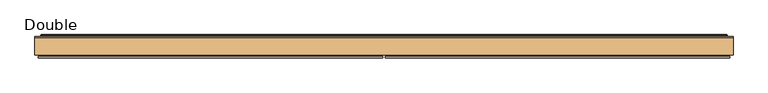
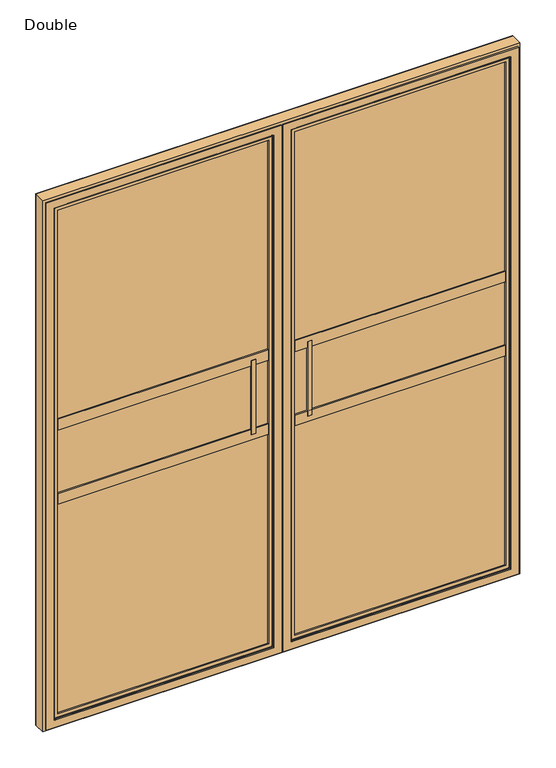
"""IFC4 building model written with IfcOpenShell, lengths in millimetres: door geometry, SMARTS_HeritageDoor : Double."""

from ifc_helpers import new_model, si_unit, frame, origin, place, context, project, spatial, polyline, ellipse_curve, outline, extrude, source, transform, mapped, element, save
from ifc_brep_helpers import plane_surface, cylinder_surface, revolved_surface, advanced_brep


def double_445c4c4e(model_context):
    return source(origin(), model_context, "Body", "SolidModel", [
        extrude(outline(polyline([(-38.0, -46.0), (-856.5, -46.0), (-856.5, -42.0), (-38.0, -42.0), (-38.0, -46.0)])), frame((0.0, 0.0, 843.5), z_axis=(0.0, 0.0, 1.0), x_axis=(1.0, 0.0, 0.0)), (0.0, 0.0, 1.0), 2033.0),
        extrude(outline(polyline([(-38.0, -26.0), (-856.5, -26.0), (-856.5, -22.0), (-38.0, -22.0), (-38.0, -26.0)])), frame((0.0, 0.0, 843.5), z_axis=(0.0, 0.0, 1.0), x_axis=(1.0, 0.0, 0.0)), (0.0, 0.0, 1.0), 2033.0),
        extrude(outline(polyline([(2876.5, -856.5), (843.5, -856.5), (843.5, -38.0), (2876.5, -38.0), (2876.5, -856.5)]), holes=[polyline([(2866.5, -48.0), (853.5, -48.0), (853.5, -846.5), (2866.5, -846.5), (2866.5, -48.0)])]), frame((0.0, -42.0, 0.0), z_axis=(0.0, 1.0, 0.0), x_axis=(0.0, 0.0, 1.0)), (0.0, 0.0, 1.0), 16.0),
        extrude(outline(polyline([(-99.7380255, -18.3), (-114.7380255, -18.3), (-114.7380255, -7.0), (-99.7380255, -7.0), (-99.7380255, -18.3)])), frame((0.0, 0.0, 1712.0), z_axis=(0.0, 0.0, 1.0), x_axis=(1.0, 0.0, 0.0)), (0.0, 0.0, 1.0), 296.0),
        extrude(outline(polyline([(-34.5, -7.0), (-34.5, -37.9), (-99.7380255, -37.9), (-99.7380255, -7.0), (-34.5, -7.0)])), frame((0.0, 0.0, 1712.0), z_axis=(0.0, 0.0, 1.0), x_axis=(1.0, 0.0, 0.0)), (0.0, 0.0, 1.0), 296.0),
        extrude(outline(polyline([(-114.7380255, -49.6), (-99.7380255, -49.6), (-99.7380255, -37.9), (-34.3, -37.9), (-34.3, -47.9), (-98.0380255, -47.9), (-98.0380255, -53.8), (-114.7380255, -53.8), (-114.7380255, -49.6)])), frame((0.0, 0.0, 1712.0), z_axis=(0.0, 0.0, 1.0), x_axis=(1.0, 0.0, 0.0)), (0.0, 0.0, 1.0), 296.0),
        extrude(outline(polyline([(2880.0052956, -860.0052956), (839.9947044, -860.0052956), (839.9947044, -34.4947044), (2880.0052956, -34.4947044), (2880.0052956, -860.0052956)]), holes=[polyline([(2865.0, -49.5), (855.0, -49.5), (855.0, -845.0), (2865.0, -845.0), (2865.0, -49.5)])]), frame((0.0, -19.3, 0.0), z_axis=(0.0, 1.0, 0.0), x_axis=(0.0, 0.0, 1.0)), (0.0, 0.0, 1.0), 11.3),
        extrude(outline(polyline([(2895.6451958, -18.8548042), (2895.6451958, -875.6451958), (824.3548042, -875.6451958), (824.3548042, -18.8548042), (2895.6451958, -18.8548042)]), holes=[polyline([(840.0, -34.5), (840.0, -860.0), (2880.0, -860.0), (2880.0, -34.5), (840.0, -34.5)])]), frame((0.0, -49.6, 0.0), z_axis=(0.0, 1.0, 0.0), x_axis=(0.0, 0.0, 1.0)), (0.0, 0.0, 1.0), 41.6),
        advanced_brep(
        [(-49.5, -54.8, 2865.0), (-49.5, -49.6, 2865.0), (-49.5, -49.6, 855.0), (-49.5, -54.8, 855.0), (-845.0, -49.6, 855.0), (-845.0, -54.8, 855.0), (-845.0, -49.6, 2865.0), (-845.0, -54.8, 2865.0), (-3.3, -56.0, 2911.2), (-3.3, -60.0, 2911.2), (-3.3, -60.0, 808.8), (-3.3, -56.0, 808.8), (-891.2, -60.0, 808.8), (-891.2, -56.0, 808.8), (-891.2, -60.0, 2911.2), (-891.2, -56.0, 2911.2), (-18.3532343, -56.0, 2896.1467657), (-876.1467657, -56.0, 2896.1467657), (-876.1467657, -56.0, 823.8532343), (-18.3532343, -56.0, 823.8532343), (-32.3, -60.0, 837.8), (-862.2, -60.0, 837.8), (-862.2, -60.0, 2882.2), (-32.3, -60.0, 2882.2), (-18.3532343, -49.6, 2896.1467657), (-18.3532343, -49.6, 823.8532343), (-876.1467657, -49.6, 823.8532343), (-876.1467657, -49.6, 2896.1467657), (-34.3, -58.0, 2880.2), (-34.3, -56.8, 2880.2), (-34.3, -56.8, 839.8), (-34.3, -58.0, 839.8), (-36.3, -54.8, 2878.2), (-36.3, -54.8, 841.8), (-860.2, -56.8, 839.8), (-860.2, -58.0, 839.8), (-858.2, -54.8, 841.8), (-860.2, -56.8, 2880.2), (-860.2, -58.0, 2880.2), (-858.2, -54.8, 2878.2)],
        [
            (0, 1),
            (1, 2),
            (2, 3),
            (3, 0),
            (2, 4),
            (4, 5),
            (5, 3),
            (4, 6),
            (6, 7),
            (7, 5),
            (6, 1),
            (0, 7),
            (8, 9),
            (9, 10),
            (10, 11),
            (11, 8),
            (10, 12),
            (12, 13),
            (13, 11),
            (12, 14),
            (14, 15),
            (15, 13),
            (15, 8),
            (16, 17),
            (17, 18),
            (18, 19),
            (19, 16),
            (14, 9),
            (20, 21),
            (21, 22),
            (22, 23),
            (23, 20),
            (24, 16),
            (19, 25),
            (25, 24),
            (18, 26),
            (26, 25),
            (17, 27),
            (27, 26),
            (27, 24),
            (28, 29),
            (29, 30),
            (30, 31),
            (31, 28),
            (29, 32, ellipse_curve(frame((-36.3, -56.8, 2878.2), z_axis=(-0.7071067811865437, 0.0, 0.7071067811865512), x_axis=(-0.7071067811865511, 0.0, -0.7071067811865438)), 2.8284271, 2.0)),
            (32, 33),
            (33, 30, ellipse_curve(frame((-36.3, -56.8, 841.8), z_axis=(-0.7071067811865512, 0.0, -0.7071067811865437), x_axis=(0.7071067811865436, 0.0, -0.7071067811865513)), 2.8284271, 2.0)),
            (30, 34),
            (34, 35),
            (35, 31),
            (33, 36),
            (36, 34, ellipse_curve(frame((-858.2, -56.8, 841.8), z_axis=(-0.7071067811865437, 0.0, 0.7071067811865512), x_axis=(-0.7071067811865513, 0.0, -0.7071067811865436)), 2.8284271, 2.0)),
            (34, 37),
            (37, 38),
            (38, 35),
            (36, 39),
            (39, 37, ellipse_curve(frame((-858.2, -56.8, 2878.2), z_axis=(0.7071067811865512, 0.0, 0.7071067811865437), x_axis=(-0.7071067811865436, 0.0, 0.7071067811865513)), 2.8284271, 2.0)),
            (32, 39),
            (37, 29),
            (28, 38),
            (23, 28, ellipse_curve(frame((-32.3, -58.0, 2882.2), z_axis=(0.7071067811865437, 0.0, -0.7071067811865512), x_axis=(0.7071067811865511, 0.0, 0.7071067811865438)), 2.8284271, 2.0)),
            (31, 20, ellipse_curve(frame((-32.3, -58.0, 837.8), z_axis=(0.7071067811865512, 0.0, 0.7071067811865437), x_axis=(-0.7071067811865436, 0.0, 0.7071067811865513)), 2.8284271, 2.0)),
            (35, 21, ellipse_curve(frame((-862.2, -58.0, 837.8), z_axis=(0.7071067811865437, 0.0, -0.7071067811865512), x_axis=(0.7071067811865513, 0.0, 0.7071067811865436)), 2.8284271, 2.0)),
            (38, 22, ellipse_curve(frame((-862.2, -58.0, 2882.2), z_axis=(-0.7071067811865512, 0.0, -0.7071067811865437), x_axis=(0.7071067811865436, 0.0, -0.7071067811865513)), 2.8284271, 2.0)),
        ],
        [
            plane_surface(frame((-49.5, -49.6, 2865.0), z_axis=(-1.0, 0.0, 0.0), x_axis=(0.0, 0.0, -1.0))),
            plane_surface(frame((-49.5, -49.6, 855.0), z_axis=(0.0, 0.0, 1.0), x_axis=(-1.0, 0.0, 0.0))),
            plane_surface(frame((-845.0, -49.6, 855.0), z_axis=(1.0, 0.0, 0.0), x_axis=(0.0, 0.0, 1.0))),
            plane_surface(frame((-845.0, -49.6, 2865.0), z_axis=(0.0, 0.0, -1.0), x_axis=(1.0, 0.0, 0.0))),
            plane_surface(frame((-3.3, -60.0, 2911.2), z_axis=(1.0, 0.0, 0.0), x_axis=(0.0, 0.0, -1.0))),
            plane_surface(frame((-3.3, -60.0, 808.8), z_axis=(0.0, 0.0, -1.0), x_axis=(-1.0, 0.0, 0.0))),
            plane_surface(frame((-891.2, -60.0, 808.8), z_axis=(-1.0, 0.0, 0.0), x_axis=(0.0, 0.0, 1.0))),
            plane_surface(frame((-891.2, -56.0, 2911.2), z_axis=(0.0, 1.0, 0.0), x_axis=(1.0, 0.0, 0.0))),
            plane_surface(frame((-891.2, -60.0, 2911.2), z_axis=(0.0, 0.0, 1.0), x_axis=(1.0, 0.0, 0.0))),
            plane_surface(frame((-862.2, -60.0, 2882.2), z_axis=(0.0, -1.0, 0.0), x_axis=(1.0, 0.0, 0.0))),
            plane_surface(frame((-18.3532343, -56.0, 2896.1467657), z_axis=(1.0, 0.0, 0.0), x_axis=(0.0, 0.0, -1.0))),
            plane_surface(frame((-18.3532343, -56.0, 823.8532343), z_axis=(0.0, 0.0, -1.0), x_axis=(-1.0, 0.0, 0.0))),
            plane_surface(frame((-876.1467657, -56.0, 823.8532343), z_axis=(-1.0, 0.0, 0.0), x_axis=(0.0, 0.0, 1.0))),
            plane_surface(frame((-876.1467657, -49.6, 2896.1467657), z_axis=(0.0, 1.0, 0.0), x_axis=(1.0, 0.0, 0.0))),
            plane_surface(frame((-876.1467657, -56.0, 2896.1467657), z_axis=(0.0, 0.0, 1.0), x_axis=(1.0, 0.0, 0.0))),
            plane_surface(frame((-34.3, -56.8, 2880.2), z_axis=(-1.0, 0.0, 0.0), x_axis=(0.0, 0.0, -1.0))),
            revolved_surface(polyline([(-34.3, -56.8, 839.8000000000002), (-34.3, -56.8, 2880.2)]), (-36.3, -56.8, 2890.0), (0.0, 0.0, -1.0)),
            plane_surface(frame((-34.3, -56.8, 839.8), z_axis=(0.0, 0.0, 1.0), x_axis=(-1.0, 0.0, 0.0))),
            revolved_surface(polyline([(-860.2, -56.8, 839.8), (-34.3, -56.8, 839.8)]), (-24.5, -56.8, 841.8), (-1.0, 0.0, 0.0)),
            plane_surface(frame((-860.2, -56.8, 839.8), z_axis=(1.0, 0.0, 0.0), x_axis=(0.0, 0.0, 1.0))),
            revolved_surface(polyline([(-860.2, -56.8, 2880.2), (-860.2, -56.8, 839.8)]), (-858.2, -56.8, 830.0), (0.0, 0.0, 1.0)),
            plane_surface(frame((-845.0, -54.8, 2865.0), z_axis=(0.0, -1.0, 0.0), x_axis=(1.0, 0.0, 0.0))),
            plane_surface(frame((-860.2, -56.8, 2880.2), z_axis=(0.0, 0.0, -1.0), x_axis=(1.0, 0.0, 0.0))),
            revolved_surface(polyline([(-34.299999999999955, -56.8, 2880.2), (-860.2, -56.8, 2880.2)]), (-870.0, -56.8, 2878.2), (1.0, 0.0, 0.0)),
            cylinder_surface(frame((-32.3, -58.0, 2890.0), z_axis=(0.0, 0.0, 1.0), x_axis=(1.0, 0.0, 0.0)), 2.0),
            cylinder_surface(frame((-24.5, -58.0, 837.8), z_axis=(1.0, 0.0, 0.0), x_axis=(0.0, 0.0, -1.0)), 2.0),
            cylinder_surface(frame((-862.2, -58.0, 830.0), z_axis=(0.0, 0.0, -1.0), x_axis=(-1.0, 0.0, 0.0)), 2.0),
            cylinder_surface(frame((-870.0, -58.0, 2882.2), z_axis=(-1.0, 0.0, 0.0), x_axis=(0.0, 0.0, 1.0)), 2.0),
        ],
        [
            (0, [[1, 2, 3, 4]]),
            (1, [[-3, 5, 6, 7]]),
            (2, [[-6, 8, 9, 10]]),
            (3, [[-9, 11, -1, 12]]),
            (4, [[13, 14, 15, 16]]),
            (5, [[-15, 17, 18, 19]]),
            (6, [[-18, 20, 21, 22]]),
            (7, [[-19, -22, 23, -16], [24, 25, 26, 27]]),
            (8, [[-21, 28, -13, -23]]),
            (9, [[-28, -20, -17, -14], [29, 30, 31, 32]]),
            (10, [[33, -27, 34, 35]]),
            (11, [[-34, -26, 36, 37]]),
            (12, [[-36, -25, 38, 39]]),
            (13, [[-37, -39, 40, -35], [-11, -8, -5, -2]]),
            (14, [[-38, -24, -33, -40]]),
            (15, [[41, 42, 43, 44]]),
            (16, [[45, 46, 47, -42]]),
            (17, [[-43, 48, 49, 50]]),
            (18, [[-47, 51, 52, -48]]),
            (19, [[-49, 53, 54, 55]]),
            (20, [[-52, 56, 57, -53]]),
            (21, [[58, -56, -51, -46], [-7, -10, -12, -4]]),
            (22, [[-54, 59, -41, 60]]),
            (23, [[-57, -58, -45, -59]]),
            (24, [[61, -44, 62, -32]]),
            (25, [[-62, -50, 63, -29]]),
            (26, [[-63, -55, 64, -30]]),
            (27, [[-64, -60, -61, -31]]),
        ],
    ),
        extrude(outline(polyline([(-845.0, -18.4690746), (-845.0, -7.1690746), (-49.5, -7.1690746), (-49.5, -18.4690746), (-845.0, -18.4690746)])), frame((0.0, 0.0, 1986.75), z_axis=(0.0, 0.0, 1.0), x_axis=(1.0, 0.0, 0.0)), (0.0, 0.0, 1.0), 16.15),
        extrude(outline(polyline([(-845.0, -18.4690746), (-845.0, -7.1690746), (-49.5, -7.1690746), (-49.5, -18.4690746), (-845.0, -18.4690746)])), frame((0.0, 0.0, 2014.25), z_axis=(0.0, 0.0, 1.0), x_axis=(1.0, 0.0, 0.0)), (0.0, 0.0, 1.0), 15.0052956),
        extrude(outline(polyline([(-845.0, -33.5843537), (-845.0, -7.1690746), (-49.5, -7.1690746), (-49.5, -33.5843537), (-845.0, -33.5843537)])), frame((0.0, 0.0, 2001.75), z_axis=(0.0, 0.0, 1.0), x_axis=(1.0, 0.0, 0.0)), (0.0, 0.0, 1.0), 12.5),
        extrude(outline(polyline([(-49.9690746, 2029.2552956), (-49.9690746, 2014.25), (-33.5843537, 2014.25), (-33.5843537, 2001.75), (-49.9690746, 2001.75), (-49.9690746, 1986.75), (-53.9687074, 1986.75), (-53.9687074, 2029.2552956), (-49.9690746, 2029.2552956)])), frame((-845.0, 0.0, 0.0), z_axis=(1.0, 0.0, 0.0), x_axis=(0.0, 1.0, 0.0)), (0.0, 0.0, 1.0), 795.5),
        extrude(outline(polyline([(-845.0, -18.4690746), (-845.0, -7.1690746), (-49.5, -7.1690746), (-49.5, -18.4690746), (-845.0, -18.4690746)])), frame((0.0, 0.0, 1690.75), z_axis=(0.0, 0.0, 1.0), x_axis=(1.0, 0.0, 0.0)), (0.0, 0.0, 1.0), 16.15),
        extrude(outline(polyline([(-845.0, -18.4690746), (-845.0, -7.1690746), (-49.5, -7.1690746), (-49.5, -18.4690746), (-845.0, -18.4690746)])), frame((0.0, 0.0, 1718.25), z_axis=(0.0, 0.0, 1.0), x_axis=(1.0, 0.0, 0.0)), (0.0, 0.0, 1.0), 15.0052956),
        extrude(outline(polyline([(-845.0, -33.5843537), (-845.0, -7.1690746), (-49.5, -7.1690746), (-49.5, -33.5843537), (-845.0, -33.5843537)])), frame((0.0, 0.0, 1705.75), z_axis=(0.0, 0.0, 1.0), x_axis=(1.0, 0.0, 0.0)), (0.0, 0.0, 1.0), 12.5),
        extrude(outline(polyline([(-49.9690746, 1733.2552956), (-49.9690746, 1718.25), (-33.5843537, 1718.25), (-33.5843537, 1705.75), (-49.9690746, 1705.75), (-49.9690746, 1690.75), (-53.9687074, 1690.75), (-53.9687074, 1733.2552956), (-49.9690746, 1733.2552956)])), frame((-845.0, 0.0, 0.0), z_axis=(1.0, 0.0, 0.0), x_axis=(0.0, 1.0, 0.0)), (0.0, 0.0, 1.0), 795.5),
        extrude(outline(polyline([(38.0, -46.0), (38.0, -42.0), (856.5, -42.0), (856.5, -46.0), (38.0, -46.0)])), frame((0.0, 0.0, 843.5), z_axis=(0.0, 0.0, 1.0), x_axis=(1.0, 0.0, 0.0)), (0.0, 0.0, 1.0), 2033.0),
        extrude(outline(polyline([(38.0, -26.0), (38.0, -22.0), (856.5, -22.0), (856.5, -26.0), (38.0, -26.0)])), frame((0.0, 0.0, 843.5), z_axis=(0.0, 0.0, 1.0), x_axis=(1.0, 0.0, 0.0)), (0.0, 0.0, 1.0), 2033.0),
        extrude(outline(polyline([(2876.5, 856.5), (2876.5, 38.0), (843.5, 38.0), (843.5, 856.5), (2876.5, 856.5)]), holes=[polyline([(2866.5, 48.0), (2866.5, 846.5), (853.5, 846.5), (853.5, 48.0), (2866.5, 48.0)])]), frame((0.0, -42.0, 0.0), z_axis=(0.0, 1.0, 0.0), x_axis=(0.0, 0.0, 1.0)), (0.0, 0.0, 1.0), 16.0),
        extrude(outline(polyline([(99.7380255, -18.3), (99.7380255, -7.0), (114.7380255, -7.0), (114.7380255, -18.3), (99.7380255, -18.3)])), frame((0.0, 0.0, 1712.0), z_axis=(0.0, 0.0, 1.0), x_axis=(1.0, 0.0, 0.0)), (0.0, 0.0, 1.0), 296.0),
        extrude(outline(polyline([(34.5, -7.0), (99.7380255, -7.0), (99.7380255, -37.9), (34.5, -37.9), (34.5, -7.0)])), frame((0.0, 0.0, 1712.0), z_axis=(0.0, 0.0, 1.0), x_axis=(1.0, 0.0, 0.0)), (0.0, 0.0, 1.0), 296.0),
        extrude(outline(polyline([(114.7380255, -49.6), (114.7380255, -53.8), (98.0380255, -53.8), (98.0380255, -47.9), (34.3, -47.9), (34.3, -37.9), (99.7380255, -37.9), (99.7380255, -49.6), (114.7380255, -49.6)])), frame((0.0, 0.0, 1712.0), z_axis=(0.0, 0.0, 1.0), x_axis=(1.0, 0.0, 0.0)), (0.0, 0.0, 1.0), 296.0),
        extrude(outline(polyline([(2880.0052956, 860.0052956), (2880.0052956, 34.4947044), (839.9947044, 34.4947044), (839.9947044, 860.0052956), (2880.0052956, 860.0052956)]), holes=[polyline([(2865.0, 49.5), (2865.0, 845.0), (855.0, 845.0), (855.0, 49.5), (2865.0, 49.5)])]), frame((0.0, -19.3, 0.0), z_axis=(0.0, 1.0, 0.0), x_axis=(0.0, 0.0, 1.0)), (0.0, 0.0, 1.0), 11.3),
        extrude(outline(polyline([(2895.6451958, 18.8548042), (824.3548042, 18.8548042), (824.3548042, 875.6451958), (2895.6451958, 875.6451958), (2895.6451958, 18.8548042)]), holes=[polyline([(840.0, 34.5), (2880.0, 34.5), (2880.0, 860.0), (840.0, 860.0), (840.0, 34.5)])]), frame((0.0, -49.6, 0.0), z_axis=(0.0, 1.0, 0.0), x_axis=(0.0, 0.0, 1.0)), (0.0, 0.0, 1.0), 41.6),
        advanced_brep(
        [(49.5, -54.8, 2865.0), (49.5, -54.8, 855.0), (49.5, -49.6, 855.0), (49.5, -49.6, 2865.0), (845.0, -54.8, 855.0), (845.0, -49.6, 855.0), (845.0, -54.8, 2865.0), (845.0, -49.6, 2865.0), (3.3, -56.0, 2911.2), (3.3, -56.0, 808.8), (3.3, -60.0, 808.8), (3.3, -60.0, 2911.2), (891.2, -56.0, 808.8), (891.2, -60.0, 808.8), (891.2, -56.0, 2911.2), (891.2, -60.0, 2911.2), (18.3532343, -56.0, 2896.1467657), (18.3532343, -56.0, 823.8532343), (876.1467657, -56.0, 823.8532343), (876.1467657, -56.0, 2896.1467657), (32.3, -60.0, 837.8), (32.3, -60.0, 2882.2), (862.2, -60.0, 2882.2), (862.2, -60.0, 837.8), (18.3532343, -49.6, 2896.1467657), (18.3532343, -49.6, 823.8532343), (876.1467657, -49.6, 823.8532343), (876.1467657, -49.6, 2896.1467657), (34.3, -58.0, 2880.2), (34.3, -58.0, 839.8), (34.3, -56.8, 839.8), (34.3, -56.8, 2880.2), (36.3, -54.8, 841.8), (36.3, -54.8, 2878.2), (860.2, -58.0, 839.8), (860.2, -56.8, 839.8), (858.2, -54.8, 841.8), (860.2, -58.0, 2880.2), (860.2, -56.8, 2880.2), (858.2, -54.8, 2878.2)],
        [
            (0, 1),
            (1, 2),
            (2, 3),
            (3, 0),
            (1, 4),
            (4, 5),
            (5, 2),
            (4, 6),
            (6, 7),
            (7, 5),
            (6, 0),
            (3, 7),
            (8, 9),
            (9, 10),
            (10, 11),
            (11, 8),
            (9, 12),
            (12, 13),
            (13, 10),
            (12, 14),
            (14, 15),
            (15, 13),
            (8, 14),
            (16, 17),
            (17, 18),
            (18, 19),
            (19, 16),
            (11, 15),
            (20, 21),
            (21, 22),
            (22, 23),
            (23, 20),
            (24, 25),
            (25, 17),
            (16, 24),
            (25, 26),
            (26, 18),
            (26, 27),
            (27, 19),
            (24, 27),
            (28, 29),
            (29, 30),
            (30, 31),
            (31, 28),
            (30, 32, ellipse_curve(frame((36.3, -56.8, 841.8), z_axis=(0.7071067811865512, 0.0, -0.7071067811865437), x_axis=(-0.7071067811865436, 0.0, -0.7071067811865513)), 2.8284271, 2.0)),
            (32, 33),
            (33, 31, ellipse_curve(frame((36.3, -56.8, 2878.2), z_axis=(0.7071067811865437, 0.0, 0.7071067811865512), x_axis=(0.7071067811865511, 0.0, -0.7071067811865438)), 2.8284271, 2.0)),
            (29, 34),
            (34, 35),
            (35, 30),
            (35, 36, ellipse_curve(frame((858.2, -56.8, 841.8), z_axis=(0.7071067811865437, 0.0, 0.7071067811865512), x_axis=(0.7071067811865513, 0.0, -0.7071067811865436)), 2.8284271, 2.0)),
            (36, 32),
            (34, 37),
            (37, 38),
            (38, 35),
            (38, 39, ellipse_curve(frame((858.2, -56.8, 2878.2), z_axis=(-0.7071067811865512, 0.0, 0.7071067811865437), x_axis=(0.7071067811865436, 0.0, 0.7071067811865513)), 2.8284271, 2.0)),
            (39, 36),
            (39, 33),
            (37, 28),
            (31, 38),
            (20, 29, ellipse_curve(frame((32.3, -58.0, 837.8), z_axis=(-0.7071067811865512, 0.0, 0.7071067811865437), x_axis=(0.7071067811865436, 0.0, 0.7071067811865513)), 2.8284271, 2.0)),
            (28, 21, ellipse_curve(frame((32.3, -58.0, 2882.2), z_axis=(-0.7071067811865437, 0.0, -0.7071067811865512), x_axis=(-0.7071067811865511, 0.0, 0.7071067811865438)), 2.8284271, 2.0)),
            (23, 34, ellipse_curve(frame((862.2, -58.0, 837.8), z_axis=(-0.7071067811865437, 0.0, -0.7071067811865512), x_axis=(-0.7071067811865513, 0.0, 0.7071067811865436)), 2.8284271, 2.0)),
            (22, 37, ellipse_curve(frame((862.2, -58.0, 2882.2), z_axis=(0.7071067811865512, 0.0, -0.7071067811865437), x_axis=(-0.7071067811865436, 0.0, -0.7071067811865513)), 2.8284271, 2.0)),
        ],
        [
            plane_surface(frame((49.5, -49.6, 2865.0), z_axis=(1.0, 0.0, 0.0), x_axis=(0.0, 0.0, -1.0))),
            plane_surface(frame((49.5, -49.6, 855.0), z_axis=(0.0, 0.0, 1.0), x_axis=(1.0, 0.0, 0.0))),
            plane_surface(frame((845.0, -49.6, 855.0), z_axis=(-1.0, 0.0, 0.0), x_axis=(0.0, 0.0, 1.0))),
            plane_surface(frame((845.0, -49.6, 2865.0), z_axis=(0.0, 0.0, -1.0), x_axis=(-1.0, 0.0, 0.0))),
            plane_surface(frame((3.3, -60.0, 2911.2), z_axis=(-1.0, 0.0, 0.0), x_axis=(0.0, 0.0, -1.0))),
            plane_surface(frame((3.3, -60.0, 808.8), z_axis=(0.0, 0.0, -1.0), x_axis=(1.0, 0.0, 0.0))),
            plane_surface(frame((891.2, -60.0, 808.8), z_axis=(1.0, 0.0, 0.0), x_axis=(0.0, 0.0, 1.0))),
            plane_surface(frame((891.2, -56.0, 2911.2), z_axis=(0.0, 1.0, 0.0), x_axis=(-1.0, 0.0, 0.0))),
            plane_surface(frame((891.2, -60.0, 2911.2), z_axis=(0.0, 0.0, 1.0), x_axis=(-1.0, 0.0, 0.0))),
            plane_surface(frame((862.2, -60.0, 2882.2), z_axis=(0.0, -1.0, 0.0), x_axis=(-1.0, 0.0, 0.0))),
            plane_surface(frame((18.3532343, -56.0, 2896.1467657), z_axis=(-1.0, 0.0, 0.0), x_axis=(0.0, 0.0, -1.0))),
            plane_surface(frame((18.3532343, -56.0, 823.8532343), z_axis=(0.0, 0.0, -1.0), x_axis=(1.0, 0.0, 0.0))),
            plane_surface(frame((876.1467657, -56.0, 823.8532343), z_axis=(1.0, 0.0, 0.0), x_axis=(0.0, 0.0, 1.0))),
            plane_surface(frame((876.1467657, -49.6, 2896.1467657), z_axis=(0.0, 1.0, 0.0), x_axis=(-1.0, 0.0, 0.0))),
            plane_surface(frame((876.1467657, -56.0, 2896.1467657), z_axis=(0.0, 0.0, 1.0), x_axis=(-1.0, 0.0, 0.0))),
            plane_surface(frame((34.3, -56.8, 2880.2), z_axis=(1.0, 0.0, 0.0), x_axis=(0.0, 0.0, -1.0))),
            revolved_surface(polyline([(34.3, -56.8, 839.8000000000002), (34.3, -56.8, 2880.2)]), (36.3, -56.8, 2890.0), (0.0, 0.0, -1.0)),
            plane_surface(frame((34.3, -56.8, 839.8), z_axis=(0.0, 0.0, 1.0), x_axis=(1.0, 0.0, 0.0))),
            revolved_surface(polyline([(860.2, -56.8, 839.8), (34.3, -56.8, 839.8)]), (24.5, -56.8, 841.8), (1.0, 0.0, 0.0)),
            plane_surface(frame((860.2, -56.8, 839.8), z_axis=(-1.0, 0.0, 0.0), x_axis=(0.0, 0.0, 1.0))),
            revolved_surface(polyline([(860.2, -56.8, 2880.2), (860.2, -56.8, 839.8)]), (858.2, -56.8, 830.0), (0.0, 0.0, 1.0)),
            plane_surface(frame((845.0, -54.8, 2865.0), z_axis=(0.0, -1.0, 0.0), x_axis=(-1.0, 0.0, 0.0))),
            plane_surface(frame((860.2, -56.8, 2880.2), z_axis=(0.0, 0.0, -1.0), x_axis=(-1.0, 0.0, 0.0))),
            revolved_surface(polyline([(34.299999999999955, -56.8, 2880.2), (860.2, -56.8, 2880.2)]), (870.0, -56.8, 2878.2), (-1.0, 0.0, 0.0)),
            cylinder_surface(frame((32.3, -58.0, 2890.0), z_axis=(0.0, 0.0, 1.0), x_axis=(-1.0, 0.0, 0.0)), 2.0),
            cylinder_surface(frame((24.5, -58.0, 837.8), z_axis=(-1.0, 0.0, 0.0), x_axis=(0.0, 0.0, -1.0)), 2.0),
            cylinder_surface(frame((862.2, -58.0, 830.0), z_axis=(0.0, 0.0, -1.0), x_axis=(1.0, 0.0, 0.0)), 2.0),
            cylinder_surface(frame((870.0, -58.0, 2882.2), z_axis=(1.0, 0.0, 0.0), x_axis=(0.0, 0.0, 1.0)), 2.0),
        ],
        [
            (0, [[1, 2, 3, 4]]),
            (1, [[5, 6, 7, -2]]),
            (2, [[8, 9, 10, -6]]),
            (3, [[11, -4, 12, -9]]),
            (4, [[13, 14, 15, 16]]),
            (5, [[17, 18, 19, -14]]),
            (6, [[20, 21, 22, -18]]),
            (7, [[-13, 23, -20, -17], [24, 25, 26, 27]]),
            (8, [[-23, -16, 28, -21]]),
            (9, [[-15, -19, -22, -28], [29, 30, 31, 32]]),
            (10, [[33, 34, -24, 35]]),
            (11, [[36, 37, -25, -34]]),
            (12, [[38, 39, -26, -37]]),
            (13, [[-33, 40, -38, -36], [-3, -7, -10, -12]]),
            (14, [[-40, -35, -27, -39]]),
            (15, [[41, 42, 43, 44]]),
            (16, [[-43, 45, 46, 47]]),
            (17, [[48, 49, 50, -42]]),
            (18, [[-50, 51, 52, -45]]),
            (19, [[53, 54, 55, -49]]),
            (20, [[-55, 56, 57, -51]]),
            (21, [[-46, -52, -57, 58], [-1, -11, -8, -5]]),
            (22, [[59, -44, 60, -54]]),
            (23, [[-60, -47, -58, -56]]),
            (24, [[-29, 61, -41, 62]]),
            (25, [[-32, 63, -48, -61]]),
            (26, [[-31, 64, -53, -63]]),
            (27, [[-30, -62, -59, -64]]),
        ],
    ),
        extrude(outline(polyline([(845.0, -18.4690746), (49.5, -18.4690746), (49.5, -7.1690746), (845.0, -7.1690746), (845.0, -18.4690746)])), frame((0.0, 0.0, 1986.75), z_axis=(0.0, 0.0, 1.0), x_axis=(1.0, 0.0, 0.0)), (0.0, 0.0, 1.0), 16.15),
        extrude(outline(polyline([(845.0, -18.4690746), (49.5, -18.4690746), (49.5, -7.1690746), (845.0, -7.1690746), (845.0, -18.4690746)])), frame((0.0, 0.0, 2014.25), z_axis=(0.0, 0.0, 1.0), x_axis=(1.0, 0.0, 0.0)), (0.0, 0.0, 1.0), 15.0052956),
        extrude(outline(polyline([(845.0, -33.5843537), (49.5, -33.5843537), (49.5, -7.1690746), (845.0, -7.1690746), (845.0, -33.5843537)])), frame((0.0, 0.0, 2001.75), z_axis=(0.0, 0.0, 1.0), x_axis=(1.0, 0.0, 0.0)), (0.0, 0.0, 1.0), 12.5),
        extrude(outline(polyline([(-49.9690746, 2029.2552956), (-49.9690746, 2014.25), (-33.5843537, 2014.25), (-33.5843537, 2001.75), (-49.9690746, 2001.75), (-49.9690746, 1986.75), (-53.9687074, 1986.75), (-53.9687074, 2029.2552956), (-49.9690746, 2029.2552956)])), frame((49.5, 0.0, 0.0), z_axis=(1.0, 0.0, 0.0), x_axis=(0.0, 1.0, 0.0)), (0.0, 0.0, 1.0), 795.5),
        extrude(outline(polyline([(845.0, -18.4690746), (49.5, -18.4690746), (49.5, -7.1690746), (845.0, -7.1690746), (845.0, -18.4690746)])), frame((0.0, 0.0, 1690.75), z_axis=(0.0, 0.0, 1.0), x_axis=(1.0, 0.0, 0.0)), (0.0, 0.0, 1.0), 16.15),
        extrude(outline(polyline([(845.0, -18.4690746), (49.5, -18.4690746), (49.5, -7.1690746), (845.0, -7.1690746), (845.0, -18.4690746)])), frame((0.0, 0.0, 1718.25), z_axis=(0.0, 0.0, 1.0), x_axis=(1.0, 0.0, 0.0)), (0.0, 0.0, 1.0), 15.0052956),
        extrude(outline(polyline([(845.0, -33.5843537), (49.5, -33.5843537), (49.5, -7.1690746), (845.0, -7.1690746), (845.0, -33.5843537)])), frame((0.0, 0.0, 1705.75), z_axis=(0.0, 0.0, 1.0), x_axis=(1.0, 0.0, 0.0)), (0.0, 0.0, 1.0), 12.5),
        extrude(outline(polyline([(-49.9690746, 1733.2552956), (-49.9690746, 1718.25), (-33.5843537, 1718.25), (-33.5843537, 1705.75), (-49.9690746, 1705.75), (-49.9690746, 1690.75), (-53.9687074, 1690.75), (-53.9687074, 1733.2552956), (-49.9690746, 1733.2552956)])), frame((49.5, 0.0, 0.0), z_axis=(1.0, 0.0, 0.0), x_axis=(0.0, 1.0, 0.0)), (0.0, 0.0, 1.0), 795.5),
        advanced_brep(
        [(867.0, 0.0, 2887.0), (867.0, 0.0, 833.0), (867.0, -4.0, 833.0), (867.0, -4.0, 2887.0), (882.2999818, -4.0, 2902.2999818), (882.2999818, -4.0, 817.7000182), (882.2999818, -7.0000138, 817.7000182), (882.2999818, -7.0000138, 2902.2999818), (884.4999818, -3.5000138, 2904.4999818), (884.4999818, -3.5000138, 815.5000182), (884.4999818, -2.0, 815.5000182), (884.4999818, -2.0, 2904.4999818), (-867.0, 0.0, 833.0), (-867.0, -4.0, 833.0), (-882.2999818, -4.0, 817.7000182), (-882.2999818, -7.0000138, 817.7000182), (-884.4999818, -3.5000138, 815.5000182), (-884.4999818, -2.0, 815.5000182), (-867.0, 0.0, 2887.0), (-867.0, -4.0, 2887.0), (-882.2999818, -4.0, 2902.2999818), (-882.2999818, -7.0000138, 2902.2999818), (-884.4999818, -3.5000138, 2904.4999818), (-884.4999818, -2.0, 2904.4999818), (885.9999818, -5.0000138, 2905.9999818), (885.9999818, -5.0000138, 814.0000182), (900.0, -7.0000138, 2920.0), (900.0, -7.0000138, 800.0), (900.0, -5.0000138, 800.0), (900.0, -5.0000138, 2920.0), (-885.9999818, -5.0000138, 814.0000182), (-900.0, -7.0000138, 800.0), (-900.0, -5.0000138, 800.0), (-885.9999818, -5.0000138, 2905.9999818), (-900.0, -7.0000138, 2920.0), (-900.0, -5.0000138, 2920.0), (882.4999818, 0.0, 2902.4999818), (882.4999818, 0.0, 817.5000182), (-882.4999818, 0.0, 817.5000182), (-882.4999818, 0.0, 2902.4999818)],
        [
            (0, 1),
            (1, 2),
            (2, 3),
            (3, 0),
            (4, 5),
            (5, 6),
            (6, 7),
            (7, 4),
            (8, 9),
            (9, 10),
            (10, 11),
            (11, 8),
            (1, 12),
            (12, 13),
            (13, 2),
            (5, 14),
            (14, 15),
            (15, 6),
            (9, 16),
            (16, 17),
            (17, 10),
            (12, 18),
            (18, 19),
            (19, 13),
            (14, 20),
            (20, 21),
            (21, 15),
            (16, 22),
            (22, 23),
            (23, 17),
            (18, 0),
            (3, 19),
            (4, 20),
            (7, 21),
            (22, 8),
            (11, 23),
            (24, 25),
            (25, 9, ellipse_curve(frame((885.9999818, -3.5000138, 814.0000182), z_axis=(-0.7071067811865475, 0.0, -0.7071067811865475), x_axis=(0.7071067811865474, 0.0, -0.7071067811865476)), 2.1213203, 1.5)),
            (8, 24, ellipse_curve(frame((885.9999818, -3.5000138, 2905.9999818), z_axis=(-0.7071067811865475, 0.0, 0.7071067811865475), x_axis=(-0.7071067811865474, 0.0, -0.7071067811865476)), 2.1213203, 1.5)),
            (26, 27),
            (27, 28),
            (28, 29),
            (29, 26),
            (25, 30),
            (30, 16, ellipse_curve(frame((-885.9999818, -3.5000138, 814.0000182), z_axis=(-0.7071067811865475, 0.0, 0.7071067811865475), x_axis=(-0.7071067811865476, 0.0, -0.7071067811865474)), 2.1213203, 1.5)),
            (27, 31),
            (31, 32),
            (32, 28),
            (30, 33),
            (33, 22, ellipse_curve(frame((-885.9999818, -3.5000138, 2905.9999818), z_axis=(0.7071067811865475, 0.0, 0.7071067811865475), x_axis=(-0.7071067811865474, 0.0, 0.7071067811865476)), 2.1213203, 1.5)),
            (31, 34),
            (34, 35),
            (35, 32),
            (33, 24),
            (35, 29),
            (36, 37),
            (37, 38),
            (38, 39),
            (39, 36),
            (34, 26),
            (10, 37, ellipse_curve(frame((882.4999818, -2.0, 817.5000182), z_axis=(0.7071067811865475, 0.0, 0.7071067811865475), x_axis=(-0.7071067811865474, 0.0, 0.7071067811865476)), 2.8284271, 2.0)),
            (36, 11, ellipse_curve(frame((882.4999818, -2.0, 2902.4999818), z_axis=(0.7071067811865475, 0.0, -0.7071067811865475), x_axis=(0.7071067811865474, 0.0, 0.7071067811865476)), 2.8284271, 2.0)),
            (17, 38, ellipse_curve(frame((-882.4999818, -2.0, 817.5000182), z_axis=(0.7071067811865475, 0.0, -0.7071067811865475), x_axis=(0.7071067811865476, 0.0, 0.7071067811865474)), 2.8284271, 2.0)),
            (23, 39, ellipse_curve(frame((-882.4999818, -2.0, 2902.4999818), z_axis=(-0.7071067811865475, 0.0, -0.7071067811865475), x_axis=(0.7071067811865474, 0.0, -0.7071067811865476)), 2.8284271, 2.0)),
        ],
        [
            plane_surface(frame((867.0, -4.0, 2887.0), z_axis=(-1.0, 0.0, 0.0), x_axis=(0.0, 0.0, -1.0))),
            plane_surface(frame((882.2999818, -7.0000138, 2902.2999818), z_axis=(-1.0, 0.0, 0.0), x_axis=(0.0, 0.0, -1.0))),
            plane_surface(frame((884.4999818, -2.0, 2904.4999818), z_axis=(1.0, 0.0, 0.0), x_axis=(0.0, 0.0, -1.0))),
            plane_surface(frame((867.0, -4.0, 833.0), z_axis=(0.0, 0.0, 1.0), x_axis=(-1.0, 0.0, 0.0))),
            plane_surface(frame((882.2999818, -7.0000138, 817.7000182), z_axis=(0.0, 0.0, 1.0), x_axis=(-1.0, 0.0, 0.0))),
            plane_surface(frame((884.4999818, -2.0, 815.5000182), z_axis=(0.0, 0.0, -1.0), x_axis=(-1.0, 0.0, 0.0))),
            plane_surface(frame((-867.0, -4.0, 833.0), z_axis=(1.0, 0.0, 0.0), x_axis=(0.0, 0.0, 1.0))),
            plane_surface(frame((-882.2999818, -7.0000138, 817.7000182), z_axis=(1.0, 0.0, 0.0), x_axis=(0.0, 0.0, 1.0))),
            plane_surface(frame((-884.4999818, -2.0, 815.5000182), z_axis=(-1.0, 0.0, 0.0), x_axis=(0.0, 0.0, 1.0))),
            plane_surface(frame((-867.0, -4.0, 2887.0), z_axis=(0.0, 0.0, -1.0), x_axis=(1.0, 0.0, 0.0))),
            plane_surface(frame((-882.2999818, -4.0, 2902.2999818), z_axis=(0.0, -1.0, 0.0), x_axis=(1.0, 0.0, 0.0))),
            plane_surface(frame((-882.2999818, -7.0000138, 2902.2999818), z_axis=(0.0, 0.0, -1.0), x_axis=(1.0, 0.0, 0.0))),
            plane_surface(frame((-884.4999818, -2.0, 2904.4999818), z_axis=(0.0, 0.0, 1.0), x_axis=(1.0, 0.0, 0.0))),
            revolved_surface(polyline([(884.4999818, -3.5000138, 812.5000182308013), (884.4999818, -3.5000138, 2907.4999817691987)]), (885.9999818, -3.5000138, 2920.0), (0.0, 0.0, -1.0)),
            plane_surface(frame((900.0, -5.0000138, 2920.0), z_axis=(1.0, 0.0, 0.0), x_axis=(0.0, 0.0, -1.0))),
            revolved_surface(polyline([(-887.4999817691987, -3.5000138, 815.5000182), (887.4999817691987, -3.5000138, 815.5000182)]), (900.0, -3.5000138, 814.0000182), (-1.0, 0.0, 0.0)),
            plane_surface(frame((900.0, -5.0000138, 800.0), z_axis=(0.0, 0.0, -1.0), x_axis=(-1.0, 0.0, 0.0))),
            revolved_surface(polyline([(-884.4999818, -3.5000138, 2907.4999817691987), (-884.4999818, -3.5000138, 812.5000182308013)]), (-885.9999818, -3.5000138, 800.0), (0.0, 0.0, 1.0)),
            plane_surface(frame((-900.0, -5.0000138, 800.0), z_axis=(-1.0, 0.0, 0.0), x_axis=(0.0, 0.0, 1.0))),
            revolved_surface(polyline([(887.4999817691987, -3.5000138, 2904.4999818), (-887.4999817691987, -3.5000138, 2904.4999818)]), (-900.0, -3.5000138, 2905.9999818), (1.0, 0.0, 0.0)),
            plane_surface(frame((-885.9999818, -5.0000138, 2905.9999818), z_axis=(0.0, 1.0, 0.0), x_axis=(1.0, 0.0, 0.0))),
            plane_surface(frame((-867.0, 0.0, 2887.0), z_axis=(0.0, 1.0, 0.0), x_axis=(1.0, 0.0, 0.0))),
            plane_surface(frame((-900.0, -5.0000138, 2920.0), z_axis=(0.0, 0.0, 1.0), x_axis=(1.0, 0.0, 0.0))),
            plane_surface(frame((-900.0, -7.0000138, 2920.0), z_axis=(0.0, -1.0, 0.0), x_axis=(1.0, 0.0, 0.0))),
            cylinder_surface(frame((882.4999818, -2.0, 2920.0), z_axis=(0.0, 0.0, 1.0), x_axis=(-1.0, 0.0, 0.0)), 2.0),
            cylinder_surface(frame((900.0, -2.0, 817.5000182), z_axis=(1.0, 0.0, 0.0), x_axis=(0.0, 0.0, 1.0)), 2.0),
            cylinder_surface(frame((-882.4999818, -2.0, 800.0), z_axis=(0.0, 0.0, -1.0), x_axis=(1.0, 0.0, 0.0)), 2.0),
            cylinder_surface(frame((-900.0, -2.0, 2902.4999818), z_axis=(-1.0, 0.0, 0.0), x_axis=(0.0, 0.0, -1.0)), 2.0),
        ],
        [
            (0, [[1, 2, 3, 4]]),
            (1, [[5, 6, 7, 8]]),
            (2, [[9, 10, 11, 12]]),
            (3, [[13, 14, 15, -2]]),
            (4, [[16, 17, 18, -6]]),
            (5, [[19, 20, 21, -10]]),
            (6, [[22, 23, 24, -14]]),
            (7, [[25, 26, 27, -17]]),
            (8, [[28, 29, 30, -20]]),
            (9, [[31, -4, 32, -23]]),
            (10, [[-5, 33, -25, -16], [-3, -15, -24, -32]]),
            (11, [[-33, -8, 34, -26]]),
            (12, [[35, -12, 36, -29]]),
            (13, [[37, 38, -9, 39]]),
            (14, [[40, 41, 42, 43]]),
            (15, [[44, 45, -19, -38]]),
            (16, [[46, 47, 48, -41]]),
            (17, [[49, 50, -28, -45]]),
            (18, [[51, 52, 53, -47]]),
            (19, [[54, -39, -35, -50]]),
            (20, [[-42, -48, -53, 55], [-37, -54, -49, -44]]),
            (21, [[56, 57, 58, 59], [-1, -31, -22, -13]]),
            (22, [[60, -43, -55, -52]]),
            (23, [[-40, -60, -51, -46], [-7, -18, -27, -34]]),
            (24, [[-11, 61, -56, 62]]),
            (25, [[-21, 63, -57, -61]]),
            (26, [[-30, 64, -58, -63]]),
            (27, [[-36, -62, -59, -64]]),
        ],
    ),
        extrude(outline(polyline([(800.0, 900.0), (2920.0, 900.0), (2920.0, -900.0), (800.0, -900.0), (800.0, 900.0)]), holes=[polyline([(2902.2999818, 882.2999818), (817.7000182, 882.2999818), (817.7000182, -882.2999818), (2902.2999818, -882.2999818), (2902.2999818, 882.2999818)])]), frame((0.0, -52.0000099, 0.0), z_axis=(0.0, 1.0, 0.0), x_axis=(0.0, 0.0, 1.0)), (0.0, 0.0, 1.0), 44.9999962),
    ])


if __name__ == "__main__":
    model = new_model("IFC4")
    model_context = context("Model", 3, world=origin())
    ifc_project = project(units=[si_unit("LENGTHUNIT", "METRE", prefix="MILLI")], contexts=[model_context])
    site = spatial("IfcSite", under=ifc_project)
    building = spatial("IfcBuilding", under=site)
    placement = place(None, origin())
    double_shape = double_445c4c4e(model_context)
    element("IfcDoor", 1, ObjectType="SMARTS_HeritageDoor : Double", at=placement, inside=building, context=model_context, shape_type="MappedRepresentation", body=[
        mapped(double_shape, transform((0.0, 0.0, 0.0), x_axis=(1.0, 0.0, 0.0), y_axis=(0.0, 1.0, 0.0), z_axis=(0.0, 0.0, 1.0))),
    ])
    save(model, "model.ifc")
